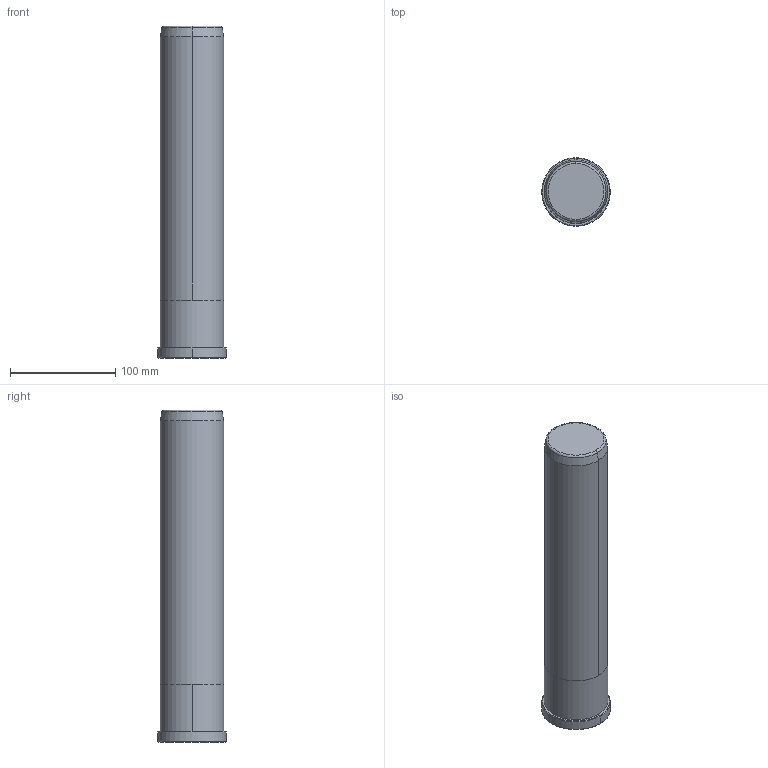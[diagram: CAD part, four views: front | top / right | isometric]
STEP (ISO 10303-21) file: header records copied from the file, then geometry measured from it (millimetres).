
FILE_DESCRIPTION((''),'2;1');
FILE_NAME('B80860315','2018-01-06T',('MANU'),(''),'PRO/ENGINEER BY PARAMETRIC TECHNOLOGY CORPORATION, 2012130','PRO/ENGINEER BY PARAMETRIC TECHNOLOGY CORPORATION, 2012130','');
FILE_SCHEMA(('CONFIG_CONTROL_DESIGN'));
Length unit declared in the file: millimetre
Products named in the file (1): B80860315
Bounding box: 65 x 65 x 315 mm (x, y, z)
Volume: 893856.1 mm3; surface area: 65601.2 mm2
Topology: 1 solids, 1 shells, 18 faces, 34 edges, 20 vertices
Faces by surface type: cone 6, cylinder 6, plane 4, torus 2
Entity records: 494 total; most frequent: DIRECTION 92, CARTESIAN_POINT 72, ORIENTED_EDGE 68, AXIS2_PLACEMENT_3D 40, EDGE_CURVE 34, CIRCLE 22, VERTEX_POINT 20, EDGE_LOOP 20
